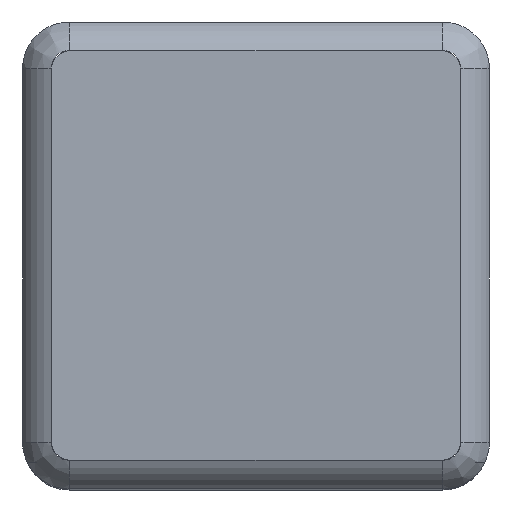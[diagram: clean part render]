
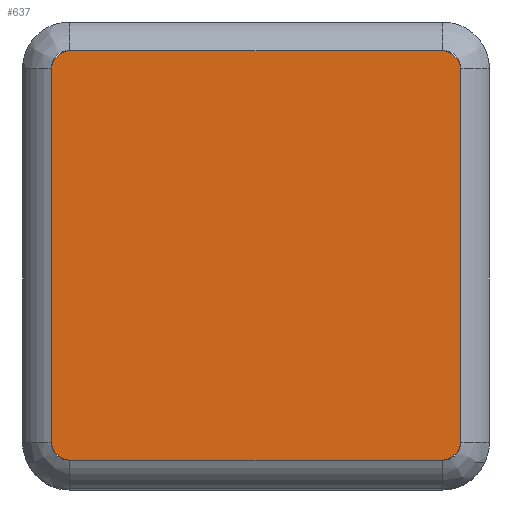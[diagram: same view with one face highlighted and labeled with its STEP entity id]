
A CAD part, front view. The second image highlights one B-rep face of the part: STEP entity #637.
In plain terms, the highlighted planar face has unit normal (0, -1, 0).
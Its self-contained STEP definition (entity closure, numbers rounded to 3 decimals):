
#71=CARTESIAN_POINT('',(25.85,-477.,-25.85));
#72=DIRECTION('',(0.,-1.,0.));
#73=DIRECTION('',(0.,0.,-1.));
#74=AXIS2_PLACEMENT_3D('',#71,#72,#73);
#88=DIRECTION('',(-1.,0.,0.));
#89=VECTOR('',#88,51.7);
#90=CARTESIAN_POINT('',(25.85,-477.,28.6));
#91=LINE('',#90,#89);
#100=CARTESIAN_POINT('',(-25.85,-477.,25.85));
#101=DIRECTION('',(0.,-1.,0.));
#102=DIRECTION('',(0.,0.,1.));
#103=AXIS2_PLACEMENT_3D('',#100,#101,#102);
#117=DIRECTION('',(0.,0.,-1.));
#118=VECTOR('',#117,51.7);
#119=CARTESIAN_POINT('',(-28.6,-477.,25.85));
#120=LINE('',#119,#118);
#129=CARTESIAN_POINT('',(-25.85,-477.,-25.85));
#130=DIRECTION('',(0.,-1.,0.));
#131=DIRECTION('',(-1.,0.,0.));
#132=AXIS2_PLACEMENT_3D('',#129,#130,#131);
#146=DIRECTION('',(1.,0.,0.));
#147=VECTOR('',#146,51.7);
#148=CARTESIAN_POINT('',(-25.85,-477.,-28.6));
#149=LINE('',#148,#147);
#359=CARTESIAN_POINT('',(25.85,-477.,25.85));
#360=DIRECTION('',(0.,-1.,0.));
#361=DIRECTION('',(1.,0.,0.));
#362=AXIS2_PLACEMENT_3D('',#359,#360,#361);
#388=DIRECTION('',(0.,0.,1.));
#389=VECTOR('',#388,51.7);
#390=CARTESIAN_POINT('',(28.6,-477.,-25.85));
#391=LINE('',#390,#389);
#579=CARTESIAN_POINT('',(25.85,-477.,-28.6));
#580=CARTESIAN_POINT('',(28.6,-477.,-25.85));
#581=VERTEX_POINT('',#579);
#582=VERTEX_POINT('',#580);
#583=CARTESIAN_POINT('',(28.6,-477.,25.85));
#584=VERTEX_POINT('',#583);
#585=CARTESIAN_POINT('',(25.85,-477.,28.6));
#586=VERTEX_POINT('',#585);
#587=CARTESIAN_POINT('',(-25.85,-477.,28.6));
#588=CARTESIAN_POINT('',(-28.6,-477.,25.85));
#589=VERTEX_POINT('',#587);
#590=VERTEX_POINT('',#588);
#591=CARTESIAN_POINT('',(-28.6,-477.,-25.85));
#592=VERTEX_POINT('',#591);
#593=CARTESIAN_POINT('',(-25.85,-477.,-28.6));
#594=VERTEX_POINT('',#593);
#615=CARTESIAN_POINT('',(0.,-477.,0.));
#616=DIRECTION('',(0.,1.,0.));
#617=DIRECTION('',(0.,0.,1.));
#618=AXIS2_PLACEMENT_3D('',#615,#616,#617);
#619=PLANE('',#618);
#621=ORIENTED_EDGE('',*,*,#620,.F.);
#623=ORIENTED_EDGE('',*,*,#622,.F.);
#625=ORIENTED_EDGE('',*,*,#624,.F.);
#626=ORIENTED_EDGE('',*,*,#600,.F.);
#628=ORIENTED_EDGE('',*,*,#627,.F.);
#630=ORIENTED_EDGE('',*,*,#629,.F.);
#632=ORIENTED_EDGE('',*,*,#631,.F.);
#634=ORIENTED_EDGE('',*,*,#633,.F.);
#635=EDGE_LOOP('',(#621,#623,#625,#626,#628,#630,#632,#634));
#636=FACE_OUTER_BOUND('',#635,.F.);
#75=CIRCLE('',#74,2.75);
#104=CIRCLE('',#103,2.75);
#133=CIRCLE('',#132,2.75);
#363=CIRCLE('',#362,2.75);
#600=EDGE_CURVE('',#581,#582,#75,.T.);
#620=EDGE_CURVE('',#586,#589,#91,.T.);
#622=EDGE_CURVE('',#584,#586,#363,.T.);
#624=EDGE_CURVE('',#582,#584,#391,.T.);
#627=EDGE_CURVE('',#594,#581,#149,.T.);
#629=EDGE_CURVE('',#592,#594,#133,.T.);
#631=EDGE_CURVE('',#590,#592,#120,.T.);
#633=EDGE_CURVE('',#589,#590,#104,.T.);
#637=ADVANCED_FACE('',(#636),#619,.F.);
